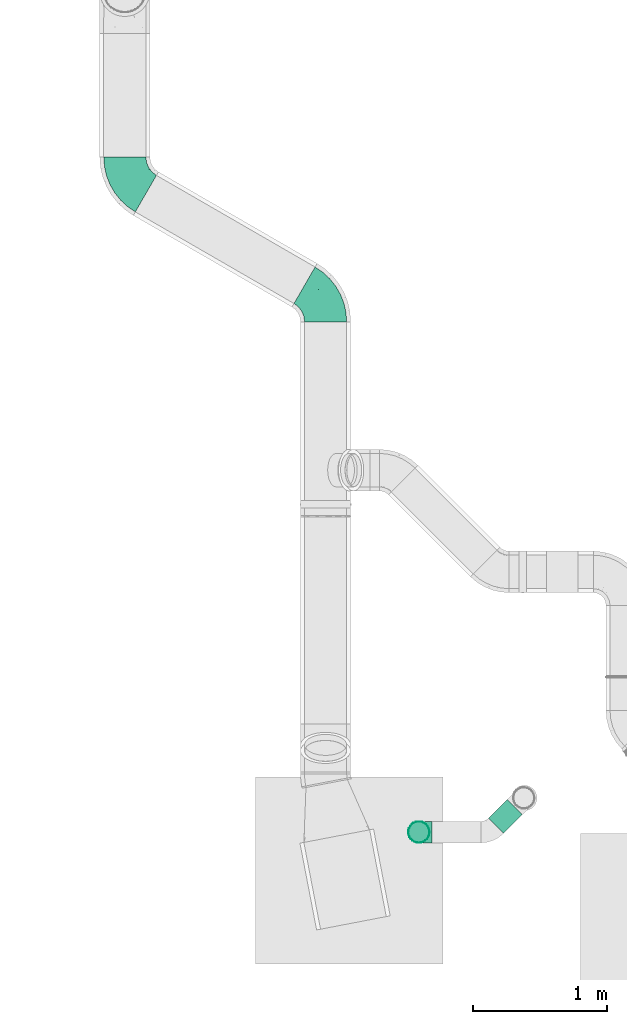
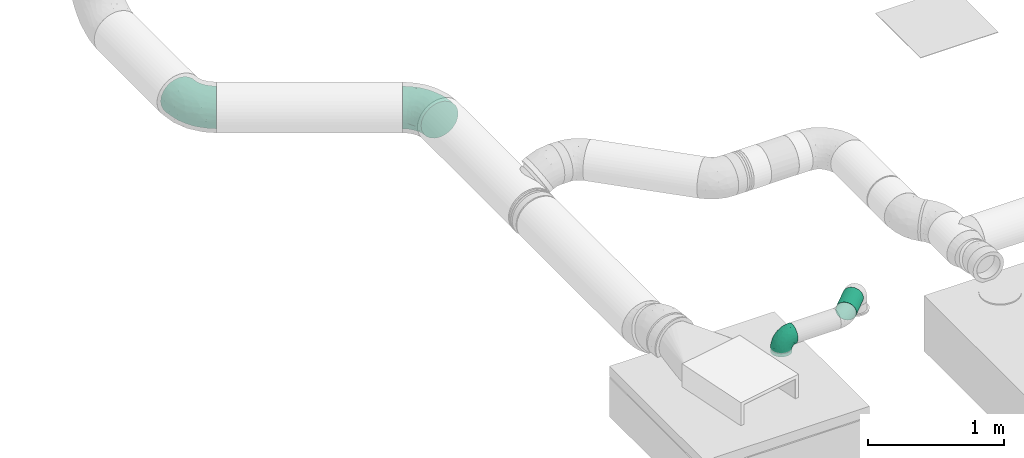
# One storey, part 11 of 21: 3 flow fittings, 2 flow segments.
"""IFC2X3 building model written with IfcOpenShell, lengths in millimetres."""

from ifc_helpers import new_model, entity, si_unit, converted_unit, derived_unit, direction, frame, origin_with_axes, origin_2d_with_axis, place, context, subcontext, project, spatial, hollow_circle, extrude, open_shell, surface_model, source, transform, mapped, type_object, element, save


model = new_model("IFC2X3")

# Units and contexts
model_context = context("Model", 3, precision=0.01, world=frame((0.0, 4.29681676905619e-09, 0.0)), true_north=direction((4.01073788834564e-13, 1.0)))
plan_context = context("Plan", 3, precision=0.01, world=frame((0.0, 4.29681676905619e-09, 0.0)), true_north=direction((4.01073788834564e-13, 1.0)))
body_context = subcontext(model_context, "Body", "Model", "MODEL_VIEW")
ifc_project = project(units=[converted_unit("PLANEANGLEUNIT", "DEGREE", entity("IfcPositiveLengthMeasure", 0.0174532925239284), si_unit("PLANEANGLEUNIT", "RADIAN"), dimensions=[0, 0, 0, 0, 0, 0, 0]), si_unit("AREAUNIT", "SQUARE_METRE"), si_unit("LENGTHUNIT", "METRE", prefix="MILLI"), si_unit("MASSUNIT", "GRAM", prefix="KILO"), si_unit("POWERUNIT", "WATT"), si_unit("PRESSUREUNIT", "PASCAL"), si_unit("FORCEUNIT", "NEWTON", prefix="KILO"), si_unit("ELECTRICVOLTAGEUNIT", "VOLT"), si_unit("ELECTRICCURRENTUNIT", "AMPERE"), si_unit("THERMODYNAMICTEMPERATUREUNIT", "DEGREE_CELSIUS"), si_unit("TIMEUNIT", "SECOND"), si_unit("VOLUMEUNIT", "CUBIC_METRE"), derived_unit("LINEARVELOCITYUNIT", [(si_unit("LENGTHUNIT", "METRE"), 1), (si_unit("TIMEUNIT", "SECOND"), -1)]), derived_unit("VOLUMETRICFLOWRATEUNIT", [(si_unit("VOLUMEUNIT", "CUBIC_METRE"), 1), (si_unit("TIMEUNIT", "SECOND"), -1)]), derived_unit("THERMALTRANSMITTANCEUNIT", [(si_unit("POWERUNIT", "WATT"), 1), (si_unit("THERMODYNAMICTEMPERATUREUNIT", "KELVIN"), -1), (si_unit("AREAUNIT", "SQUARE_METRE"), -1)]), derived_unit("SOUNDPRESSUREUNIT", [(si_unit("PRESSUREUNIT", "PASCAL"), 1)])], contexts=[model_context, plan_context])

# Site, building, storey
site_placement = place(None, frame((0.0, -4.29681676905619e-09, 0.0), z_axis=(0.0, 0.0, 1.0), x_axis=(1.0, 0.0, 0.0)))
site = spatial("IfcSite", under=ifc_project, at=site_placement, Name="ENGM", CompositionType="ELEMENT")
building_placement = place(site_placement, frame((0.0, 4.29681676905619e-09, 0.0), z_axis=(0.0, 0.0, 1.0), x_axis=(1.0, 0.0, 0.0)))
building = spatial("IfcBuilding", under=site, at=building_placement, Name="TI", CompositionType="ELEMENT")
storey_placement = place(building_placement, frame((0.0, 0.0, 210900.0), z_axis=(0.0, 0.0, 1.0), x_axis=(1.0, 0.0, 0.0)))
storey = spatial("IfcBuildingStorey", under=building, at=storey_placement, Name="Nivå F", CompositionType="ELEMENT", Elevation=210900.0)

# Flow fittings
duct_fitting_type_1 = type_object("IfcDuctFittingType", Name="magicirc_elbow_full_radius_001", PredefinedType="BEND")
shared_shape_1 = source(origin_with_axes(), body_context, "Body", "SurfaceModel", [
    surface_model("IfcShellBasedSurfaceModel", [(-181.86533, 78.75, -136.39901), (-181.86533, 40.764, -152.13332), (-181.86533, 0.0, -157.5), (-181.86533, 136.39901, -78.75), (-181.86533, -40.764, -152.13332), (-181.86533, 111.36932, -111.36932), (-181.86533, -157.5, 0.0), (-181.86533, -152.13332, 40.764), (-181.86533, -111.36932, -111.36932), (-181.86533, -152.13332, -40.764), (-181.86533, -78.75, -136.39901), (-181.86533, -136.39901, -78.75), (-181.86533, 152.13332, -40.764), (-181.86533, 157.5, 0.0), (-181.86533, 152.13332, 40.764), (-181.86533, 136.39901, 78.75), (-181.86533, 111.36932, 111.36932), (-181.86533, 78.75, 136.39901), (-181.86533, 40.764, 152.13332), (-181.86533, -111.36932, 111.36932), (-181.86533, -78.75, 136.39901), (-181.86533, -136.39901, 78.75), (-181.86533, 0.0, 157.5), (-181.86533, -40.764, 152.13332), (90.93267, 157.5, -157.5), (55.63001, 177.882, -152.13332), (22.73317, 196.87499, -136.39901), (126.23533, 137.118, -152.13332), (-27.19233, 225.6995, -78.75), (-5.51599, 213.18466, -111.36932), (209.05766, 89.3005, 78.75), (209.05766, 89.3005, -78.75), (159.13217, 118.125, -136.39901), (187.38133, 101.81534, -111.36932), (227.33167, 78.75, 0.0), (222.68399, 81.43334, -40.764), (-40.81865, 233.56667, -40.764), (-45.46633, 236.25001, 0.0), (-40.81865, 233.56667, 40.764), (-5.51599, 213.18466, 111.36932), (-27.19233, 225.6995, 78.75), (22.73317, 196.87499, 136.39901), (55.63001, 177.882, 152.13332), (90.93267, 157.5, 157.5), (159.13217, 118.125, 136.39901), (187.38133, 101.81534, 111.36932), (222.68399, 81.43334, 40.764), (126.23533, 137.118, 152.13332), (110.76273, -0.00336, 107.668), (140.5601, 45.8297, 117.38206), (81.91186, 10.43972, 130.68405), (-111.44286, -152.22257, 0.0), (151.26053, -14.18578, 35.98804), (112.4867, -47.30743, 41.95893), (139.51628, -31.36701, 0.0), (-114.99803, -144.61996, 49.6829), (-126.50142, -126.84943, 88.47028), (-109.96974, -98.81377, 117.38205), (-64.37418, -120.33447, 79.59013), (-64.36366, -135.25526, 46.96498), (-15.27392, -121.07006, 41.95894), (-126.22227, -64.71378, 141.69356), (-44.09717, 146.02346, 124.10204), (-79.35236, 112.02676, 130.88568), (-39.84735, 117.18973, 140.34133), (-42.59352, -136.50815, 0.0), (-59.9994, 211.57246, 27.04385), (-70.49601, 203.63068, 0.0), (-85.73138, 185.43541, 34.54085), (-132.02375, -25.4379, 154.79457), (-118.3912, 15.78517, 157.23535), (-49.997, -65.7179, 130.68405), (-74.24935, -22.11989, 152.62568), (-113.91776, 161.69398, 55.72905), (-154.20906, 157.69054, 26.36303), (-147.37829, 150.82028, 55.92351), (-133.50671, 56.11724, 148.79392), (-153.32956, 93.08221, 128.36964), (-135.51049, 124.35694, 103.40343), (84.30339, -75.39782, 0.0), (-123.14799, 144.47206, 81.71084), (-118.89481, 168.23686, 26.24423), (119.15491, 76.9548, 141.69356), (-13.61084, 162.72493, 130.57543), (10.38547, 77.05411, 157.23726), (-41.52191, 71.91806, 153.71682), (-26.4509, 22.41066, 156.65388), (52.80545, -91.46174, 31.38351), (23.14473, -110.70779, 0.0), (-37.02596, 183.6982, 102.5914), (-75.69972, 140.92287, 111.635), (21.08468, -36.51975, 128.62127), (71.10118, -38.29592, 102.56973), (27.28929, 160.73301, 147.54451), (50.7669, 119.27431, 157.11659), (88.04174, 101.61697, 154.79457), (182.74359, 27.28124, 49.6829), (187.55003, 20.40107, 0.0), (-49.07554, 205.95609, 65.62823), (136.3998, -4.41756, 79.59014), (173.10555, 46.12873, 88.47028), (-95.424, 158.94702, 78.39144), (16.35901, 32.88599, 154.65677), (-16.85275, -18.01929, 146.95549), (34.02367, 5.80308, 144.73696), (-84.84123, 46.63458, 154.687), (-72.01236, 14.6035, 157.42522), (-2.38537, -80.72341, 102.56972), (-103.11534, 178.601, 0.0), (7.24751, 126.43103, 150.02722), (-141.10133, 162.86668, 0.0), (32.66393, -56.57561, 108.61352), (46.0987, -79.84532, 70.32442), (-79.7114, 81.12666, 145.71002), (-115.12964, 94.73101, 132.69459), (-18.6358, 100.08433, 150.89732), (56.28106, 53.24188, 152.62568), (-55.37846, -95.92503, 107.668), (-69.30556, 177.02177, 77.81695), (-13.5701, -105.93469, 75.304), (89.26311, -50.06901, 72.66179), (-123.44581, 93.85334, -131.77335), (147.79315, 57.50598, -118.88911), (107.77828, 58.24519, -140.04791), (129.92422, 97.27064, -143.33093), (-137.86717, 15.85621, -156.99214), (-54.73419, -64.90254, -132.20136), (-60.11427, -27.6816, -149.79229), (-6.30734, -50.74549, -128.76426), (-133.18221, 56.11854, -148.81421), (-17.03345, -119.03998, -50.20296), (-151.85506, 157.83072, -27.99937), (-71.0633, 63.05643, -152.3967), (-116.92237, 165.96483, -39.64094), (46.03909, -79.74205, -70.56285), (52.79038, -91.43563, -31.53145), (-137.48804, 124.16941, -103.08647), (-95.24681, 121.97559, -118.77775), (26.84257, 83.29066, -157.46842), (-18.85355, 39.16493, -157.40731), (-20.86954, 89.71792, -152.82138), (-46.69555, 170.63897, -105.17697), (-125.0258, -145.41283, -51.3092), (-148.65725, -126.9605, -91.48433), (-126.4138, -25.53372, -154.61278), (13.29636, 135.64746, -149.37197), (-123.69822, -99.23964, -118.88911), (-12.36972, 164.694, -130.3119), (-149.20096, -63.88236, -143.33093), (160.41377, 26.83441, -85.2544), (152.18143, -6.25116, -52.60875), (124.63741, -14.8328, -80.69152), (-104.33096, -64.21613, -140.04791), (-59.74919, 138.52412, -121.35675), (-61.97527, 107.34428, -138.37711), (-103.44617, -125.50519, -85.2544), (-85.52794, -85.93602, -123.81311), (51.42676, -12.4232, -131.26832), (54.0301, 38.21968, -149.79229), (78.87033, 22.65712, -137.54899), (85.31975, 96.71069, -154.61278), (57.44336, -46.98763, -103.2453), (102.61487, -4.27903, -110.0934), (86.58972, -48.29654, -78.18841), (-66.42474, 202.11156, -35.10941), (111.60837, -44.76859, -50.20296), (-58.80114, 192.99796, -68.73443), (-70.67705, -134.91856, -52.60875), (184.27965, 65.2607, -91.48433), (55.2017, 127.32457, -156.99214), (1.66971, -2.89203, -148.64372), (-94.8613, 159.94867, -77.33496), (-140.92922, 146.9223, -68.11525), (-5.47691, -101.82457, -76.61464), (-49.47313, -115.35557, -80.69151), (188.44411, 35.5691, -51.3092), (-31.73291, 131.45204, -136.90205), (-85.55313, 18.39898, -157.46842), (8.33194, -78.69504, -99.32713), (-47.60168, -91.0066, -110.0934), (-83.06126, 146.65121, -102.24739)], [open_shell([[[0, 1, 2]], [[3, 0, 2]], [[4, 3, 2]], [[5, 0, 3]], [[3, 6, 7]], [[8, 9, 10]], [[4, 10, 6]], [[11, 9, 8]], [[6, 10, 9]], [[6, 3, 4]], [[7, 12, 3]], [[13, 7, 14]], [[15, 14, 16]], [[17, 16, 7]], [[7, 16, 14]], [[7, 18, 17]], [[19, 20, 21]], [[7, 21, 22]], [[23, 22, 20]], [[21, 20, 22]], [[22, 18, 7]], [[12, 7, 13]], [[24, 25, 26]], [[27, 24, 26]], [[27, 26, 28]], [[28, 26, 29]], [[28, 30, 31]], [[32, 31, 33]], [[31, 32, 27]], [[31, 34, 35]], [[31, 27, 28]], [[31, 30, 34]], [[28, 36, 37]], [[28, 38, 39]], [[39, 38, 40]], [[30, 39, 41]], [[39, 30, 28]], [[41, 42, 43]], [[30, 44, 45]], [[46, 34, 30]], [[44, 43, 47]], [[44, 30, 41]], [[43, 44, 41]], [[28, 37, 38]], [[48, 49, 50]], [[7, 6, 51]], [[52, 53, 54]], [[55, 21, 7]], [[51, 55, 7]], [[56, 57, 19]], [[58, 59, 60]], [[20, 61, 23]], [[20, 19, 57]], [[56, 19, 21]], [[62, 63, 64]], [[60, 59, 65]], [[66, 67, 68]], [[22, 69, 70]], [[61, 71, 72]], [[20, 57, 61]], [[73, 74, 75]], [[17, 18, 76]], [[69, 22, 23]], [[16, 77, 78]], [[53, 79, 54]], [[15, 80, 75]], [[74, 13, 14]], [[73, 81, 74]], [[49, 82, 50]], [[82, 44, 47]], [[16, 78, 15]], [[41, 39, 83]], [[16, 17, 77]], [[84, 85, 86]], [[79, 87, 88]], [[62, 89, 90]], [[91, 92, 50]], [[42, 93, 94]], [[47, 43, 95]], [[96, 52, 97]], [[46, 96, 97]], [[43, 42, 94]], [[49, 45, 44]], [[34, 46, 97]], [[66, 68, 98]], [[49, 99, 100]], [[45, 100, 30]], [[60, 65, 88]], [[68, 73, 101]], [[30, 96, 46]], [[22, 70, 18]], [[102, 103, 104]], [[105, 106, 86]], [[37, 67, 66]], [[91, 71, 107]], [[68, 108, 81]], [[109, 84, 94]], [[67, 108, 68]], [[76, 18, 70]], [[98, 89, 40]], [[81, 108, 110]], [[109, 83, 64]], [[80, 101, 73]], [[59, 51, 65]], [[111, 112, 92]], [[83, 109, 93]], [[93, 42, 41]], [[113, 76, 105]], [[56, 55, 58]], [[82, 49, 44]], [[100, 96, 30]], [[38, 98, 40]], [[99, 53, 52]], [[63, 78, 114]], [[75, 80, 73]], [[89, 39, 40]], [[115, 64, 85]], [[109, 115, 84]], [[95, 94, 116]], [[71, 61, 57]], [[69, 61, 72]], [[117, 57, 58]], [[71, 91, 103]], [[95, 82, 47]], [[116, 104, 50]], [[116, 50, 82]], [[111, 92, 91]], [[55, 56, 21]], [[57, 56, 58]], [[49, 100, 45]], [[96, 100, 99]], [[105, 76, 70]], [[77, 76, 114]], [[83, 62, 64]], [[113, 63, 114]], [[105, 86, 85]], [[116, 94, 84]], [[103, 86, 72]], [[84, 86, 102]], [[74, 81, 110]], [[68, 81, 73]], [[13, 74, 110]], [[74, 14, 75]], [[14, 15, 75]], [[80, 15, 78]], [[78, 90, 80]], [[101, 90, 118]], [[94, 95, 43]], [[82, 95, 116]], [[61, 69, 23]], [[70, 69, 72]], [[90, 89, 118]], [[83, 39, 89]], [[87, 60, 88]], [[119, 112, 107]], [[99, 48, 120]], [[53, 120, 87]], [[57, 117, 71]], [[60, 119, 58]], [[120, 92, 112]], [[49, 48, 99]], [[105, 70, 106]], [[113, 105, 85]], [[64, 113, 85]], [[76, 113, 114]], [[64, 63, 113]], [[78, 63, 90]], [[70, 72, 106]], [[72, 86, 106]], [[90, 101, 80]], [[68, 101, 118]], [[71, 103, 72]], [[104, 103, 91]], [[50, 104, 91]], [[102, 104, 116]], [[84, 102, 116]], [[103, 102, 86]], [[98, 68, 118]], [[37, 66, 38]], [[53, 87, 79]], [[60, 87, 112]], [[76, 77, 17]], [[78, 77, 114]], [[83, 93, 41]], [[94, 93, 109]], [[66, 98, 38]], [[89, 98, 118]], [[119, 117, 58]], [[107, 71, 117]], [[50, 92, 48]], [[120, 48, 92]], [[84, 115, 85]], [[109, 64, 115]], [[89, 62, 83]], [[63, 62, 90]], [[58, 55, 59]], [[59, 55, 51]], [[97, 52, 54]], [[99, 52, 96]], [[112, 119, 60]], [[117, 119, 107]], [[91, 107, 111]], [[112, 111, 107]], [[87, 120, 112]], [[99, 120, 53]], [[121, 0, 5]], [[122, 123, 124]], [[125, 2, 1]], [[126, 127, 128]], [[129, 1, 0]], [[65, 130, 88]], [[110, 131, 13]], [[132, 129, 121]], [[110, 133, 131]], [[130, 134, 135]], [[121, 136, 137]], [[138, 139, 140]], [[28, 29, 141]], [[136, 121, 5]], [[142, 11, 143]], [[144, 4, 2]], [[51, 6, 9]], [[140, 145, 138]], [[146, 8, 10]], [[147, 26, 145]], [[148, 146, 10]], [[149, 150, 151]], [[152, 144, 127]], [[142, 9, 11]], [[143, 11, 8]], [[137, 153, 154]], [[155, 146, 156]], [[10, 4, 148]], [[157, 158, 159]], [[27, 160, 24]], [[108, 133, 110]], [[161, 162, 163]], [[164, 133, 108]], [[165, 54, 79]], [[36, 164, 37]], [[36, 166, 164]], [[167, 51, 142]], [[36, 28, 166]], [[147, 29, 26]], [[33, 31, 168]], [[32, 33, 122]], [[25, 169, 145]], [[124, 160, 27]], [[25, 24, 169]], [[170, 158, 157]], [[171, 166, 141]], [[157, 128, 170]], [[27, 32, 124]], [[54, 165, 150]], [[135, 165, 79]], [[164, 108, 67]], [[129, 0, 121]], [[135, 79, 88]], [[144, 152, 148]], [[123, 122, 162]], [[136, 172, 171]], [[34, 97, 35]], [[173, 130, 174]], [[5, 3, 136]], [[175, 149, 168]], [[31, 35, 175]], [[138, 160, 158]], [[153, 176, 154]], [[25, 145, 26]], [[65, 51, 167]], [[131, 172, 12]], [[130, 167, 174]], [[153, 147, 176]], [[175, 150, 149]], [[168, 122, 33]], [[162, 122, 149]], [[158, 160, 123]], [[169, 160, 138]], [[159, 162, 157]], [[158, 170, 139]], [[35, 97, 175]], [[150, 97, 54]], [[152, 126, 156]], [[143, 146, 155]], [[125, 144, 2]], [[177, 139, 127]], [[177, 127, 144]], [[127, 170, 128]], [[142, 155, 167]], [[51, 9, 142]], [[141, 166, 28]], [[164, 171, 133]], [[172, 3, 12]], [[121, 137, 154]], [[132, 121, 154]], [[125, 129, 177]], [[145, 140, 176]], [[141, 29, 147]], [[162, 161, 157]], [[178, 128, 161]], [[128, 157, 161]], [[128, 179, 126]], [[171, 172, 133]], [[136, 3, 172]], [[129, 125, 1]], [[144, 125, 177]], [[160, 169, 24]], [[145, 169, 138]], [[162, 151, 163]], [[161, 134, 178]], [[173, 134, 130]], [[128, 178, 179]], [[138, 158, 139]], [[132, 154, 140]], [[127, 139, 170]], [[132, 139, 177]], [[139, 132, 140]], [[129, 132, 177]], [[171, 180, 136]], [[180, 141, 153]], [[150, 175, 97]], [[151, 150, 165]], [[151, 165, 163]], [[162, 149, 151]], [[165, 134, 163]], [[134, 161, 163]], [[174, 167, 155]], [[65, 167, 130]], [[155, 179, 174]], [[173, 179, 178]], [[180, 153, 137]], [[147, 153, 141]], [[145, 176, 147]], [[140, 154, 176]], [[136, 180, 137]], [[141, 180, 171]], [[179, 173, 174]], [[134, 173, 178]], [[164, 166, 171]], [[37, 164, 67]], [[130, 135, 88]], [[165, 135, 134]], [[172, 131, 133]], [[13, 131, 12]], [[122, 124, 32]], [[160, 124, 123]], [[175, 168, 31]], [[122, 168, 149]], [[144, 148, 4]], [[146, 148, 152]], [[146, 143, 8]], [[142, 143, 155]], [[158, 123, 159]], [[162, 159, 123]], [[156, 126, 179]], [[127, 126, 152]], [[155, 156, 179]], [[152, 156, 146]]])]),
])
for number, where, z_axis, x_axis, name in (
    (1, (605819.77046, 695681.72271, 2446.77402000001), (0.0, 0.0, 1.0), (0.0, -1.0, 0.0), "magicirc_elbow_full_radius_001"),
    (2, (607319.79165, 694815.68507, 2446.77914), (-2.599999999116e-05, 1.99999999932e-06, 0.99999999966), (5.1999999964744e-11, 0.999999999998, -1.999999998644e-06), "magicirc_elbow_full_radius_001"),
):
    element("IfcFlowFitting", number, at=place(storey_placement, frame(where, z_axis=z_axis, x_axis=x_axis)), inside=storey, type_object=duct_fitting_type_1, Name=name, context=body_context, shape_type="MappedRepresentation", body=[
        mapped(shared_shape_1, transform((0.0, 0.0, 0.0), scale=1.0)),
    ])
duct_fitting_type_2 = type_object("IfcDuctFittingType", Name="magicirc_elbow_short_001", PredefinedType="BEND")
shared_shape_2 = source(origin_with_axes(), body_context, "Body", "SurfaceModel", [
    surface_model("IfcShellBasedSurfaceModel", [(-96.0, 40.0, -69.28203), (-96.0, 20.70552, -77.27406), (-96.0, 0.0, -80.0), (-96.0, -56.56854, -56.56854), (-96.0, 77.27406, -20.70552), (-96.0, 69.28203, -40.0), (-96.0, 56.56854, -56.56854), (-96.0, -80.0, 0.0), (-96.0, 80.0, 0.0), (-96.0, -40.0, -69.28203), (-96.0, -20.70552, -77.27406), (-96.0, -77.27406, -20.70552), (-96.0, -69.28203, -40.0), (-96.0, 69.28203, 40.0), (-96.0, 77.27406, 20.70552), (-96.0, 56.56854, 56.56854), (-96.0, 20.70552, 77.27406), (-96.0, 40.0, 69.28203), (-96.0, -56.56854, 56.56854), (-96.0, -77.27406, 20.70552), (-96.0, -69.28203, 40.0), (-96.0, -40.0, 69.28203), (-96.0, -20.70552, 77.27406), (-96.0, 0.0, 80.0), (0.0, 96.0, -80.0), (-20.70552, 96.0, -77.27406), (-40.0, 96.0, -69.28203), (56.56854, 96.0, -56.56854), (-56.56854, 96.0, -56.56854), (-69.28203, 96.0, -40.0), (-77.27406, 96.0, -20.70552), (-69.28203, 96.0, 40.0), (80.0, 96.0, 0.0), (20.70552, 96.0, -77.27406), (40.0, 96.0, -69.28203), (69.28203, 96.0, -40.0), (77.27406, 96.0, -20.70552), (-80.0, 96.0, 0.0), (-77.27406, 96.0, 20.70552), (-20.70552, 96.0, 77.27406), (-56.56854, 96.0, 56.56854), (-40.0, 96.0, 69.28203), (56.56854, 96.0, 56.56854), (69.28203, 96.0, 40.0), (77.27406, 96.0, 20.70552), (20.70552, 96.0, 77.27406), (40.0, 96.0, 69.28203), (0.0, 96.0, 80.0), (-69.65714, 6.28172, 79.96111), (-55.13809, -64.44506, 39.50294), (-78.49025, -65.24822, 44.92297), (-66.78623, -74.13872, 22.97955), (-79.91237, 22.41513, 77.28168), (-75.12502, 46.35062, 68.0012), (-46.28207, -43.73977, 60.51883), (-62.97607, -34.53622, 70.0448), (-67.13167, -51.75304, 58.52047), (-50.44785, -74.00295, 0.0), (-76.22768, -77.39693, 0.0), (-27.18937, 68.98054, 76.89414), (-6.30632, 70.64214, 79.95132), (-47.75845, -13.62124, 76.38812), (-29.86092, -28.96824, 65.87602), (57.60059, 33.47196, 39.01765), (51.75305, 67.13168, 58.52047), (43.73976, 46.28206, 60.51883), (-74.25916, -14.36459, 78.28299), (10.2254, -42.43563, 0.0), (-6.4993, -53.78904, 15.46457), (-8.0, -56.42047, 0.0), (-84.19087, 70.906, 41.71004), (24.72725, -2.06889, 53.4325), (-0.01802, -25.92843, 53.83674), (10.21505, -32.07542, 38.02021), (-64.56198, 27.52019, 77.2893), (-41.75749, 15.12314, 79.98806), (-96.0, 30.35276, 73.27805), (-24.53367, -60.96696, 23.50038), (-29.22392, -65.21171, 0.0), (-16.40083, 51.31221, 79.86096), (-83.05291, 83.05291, 19.0855), (-84.68629, 84.68629, 0.0), (-82.41856, 62.2587, 53.33399), (-46.30222, 75.90275, 67.84453), (-9.52607, -47.72322, 35.41872), (74.13872, 66.78623, 22.97955), (14.36459, 74.25915, 78.28299), (34.53622, 62.97607, 70.04481), (65.24823, 78.49025, 44.92297), (-12.39357, 25.40172, 78.86526), (-25.63177, 1.26407, 76.9124), (69.81868, 42.56251, 16.79807), (64.44506, 55.13809, 39.50294), (60.96696, 24.53367, 23.50038), (77.39693, 76.22768, 0.0), (74.00295, 50.44785, 0.0), (-66.59951, 66.59951, 58.63708), (-52.47749, 53.06315, 72.00416), (-76.48575, 78.93853, 38.58675), (-62.2587, 82.41856, 53.33399), (28.96823, 29.86091, 65.87602), (13.62124, 47.75844, 76.38812), (-33.73129, 40.02145, 79.0537), (46.13369, 26.24415, 50.15154), (42.43563, -10.2254, 0.0), (56.42047, 8.0, 0.0), (50.0006, 1.26038, 17.57639), (-45.45369, -68.83564, 23.69149), (-33.34939, -57.45722, 39.17207), (23.38464, -27.90661, 24.78871), (35.96834, -11.07246, 30.53911), (-26.24416, -46.1337, 50.15154), (36.67491, -17.59821, 14.56442), (28.45079, -28.45079, 0.0), (65.21171, 29.22392, 0.0), (49.59687, 12.14401, 34.83259), (-47.15333, 29.07461, 78.91273), (-0.98172, 51.31629, 79.49208), (12.49517, 20.08048, 71.22925), (-1.95171, 1.9517, 70.92726), (13.07254, 1.13338, 63.57905), (-1.93327, -13.48238, 63.7412), (-18.92982, -13.00489, 70.66721), (7.85136, -42.49384, 21.32329), (-68.98054, 27.18937, -76.89414), (-22.41513, 79.91236, -77.28168), (-27.52019, 64.56198, -77.2893), (-46.35062, 75.12502, -68.0012), (-74.25916, -14.36459, -78.28299), (-42.56251, -69.81867, -16.79807), (-66.78623, -74.13872, -22.97955), (-70.64214, 6.30632, -79.95132), (-25.40172, 12.39356, -78.86526), (-15.12315, 41.75749, -79.98806), (-1.26408, 25.63177, -76.9124), (-78.93853, 76.48575, -38.58675), (-66.59952, 66.59951, -58.63708), (-82.41856, 62.2587, -53.33399), (60.96695, 24.53367, -23.50038), (53.78904, 6.4993, -15.46457), (-55.13809, -64.44506, -39.50294), (-24.53367, -60.96696, -23.50038), (-29.86092, -28.96824, -65.87602), (-26.24416, -46.1337, -50.15154), (-46.28207, -43.73977, -60.51883), (74.13872, 66.78623, -22.97955), (-40.02145, 33.73129, -79.0537), (-78.49025, -65.24822, -44.92297), (-75.90275, 46.30222, -67.84453), (-70.906, 84.19087, -41.71005), (-67.13167, -51.75305, -58.52047), (-62.97607, -34.53622, -70.0448), (-33.47196, -57.60059, -39.01766), (-51.31221, 16.40082, -79.86096), (-6.28172, 69.65713, -79.96111), (51.75304, 67.13167, -58.52047), (-83.05291, 83.05291, -19.0855), (68.83563, 45.45369, -23.69149), (-62.2587, 82.41856, -53.33399), (34.53622, 62.97606, -70.0448), (-1.26039, -50.0006, -17.5764), (-30.35276, 96.0, -73.27805), (13.62124, 47.75844, -76.38812), (14.36459, 74.25915, -78.28299), (65.24822, 78.49025, -44.92298), (2.06888, -24.72726, -53.4325), (25.92842, 0.01801, -53.83674), (32.07541, -10.21507, -38.02021), (47.72321, 9.52606, -35.41872), (28.96823, 29.86092, -65.87602), (64.44506, 55.13809, -39.50294), (-53.06315, 52.47748, -72.00416), (43.73977, 46.28207, -60.51883), (-47.75844, -13.62124, -76.38812), (57.45722, 33.34938, -39.17207), (27.90661, -23.38464, -24.78871), (11.07245, -35.96834, -30.53911), (46.1337, 26.24416, -50.15154), (17.5982, -36.67492, -14.56442), (-12.14401, -49.59687, -34.8326), (-29.07462, 47.15333, -78.91272), (-51.31629, 0.98172, -79.49208), (-20.08047, -12.49518, -71.22924), (-1.9517, 1.9517, -70.92726), (-1.13337, -13.07254, -63.57905), (13.48238, 1.93328, -63.7412), (13.00488, 18.92982, -70.66721), (42.49384, -7.85136, -21.32329)], [open_shell([[[0, 1, 2]], [[0, 2, 3]], [[4, 5, 6]], [[6, 0, 3]], [[6, 7, 8]], [[9, 3, 10]], [[3, 2, 10]], [[11, 7, 12]], [[3, 12, 7]], [[3, 7, 6]], [[8, 4, 6]], [[13, 14, 8]], [[15, 13, 8]], [[16, 17, 15]], [[8, 16, 15]], [[18, 16, 8]], [[19, 20, 7]], [[7, 20, 18]], [[21, 22, 18]], [[22, 16, 18]], [[16, 22, 23]], [[8, 7, 18]], [[24, 25, 26]], [[27, 24, 26]], [[28, 29, 30]], [[31, 32, 26]], [[28, 31, 26]], [[33, 27, 34]], [[33, 24, 27]], [[35, 32, 36]], [[32, 35, 27]], [[26, 32, 27]], [[28, 30, 37]], [[37, 38, 31]], [[31, 39, 32]], [[40, 41, 39]], [[40, 39, 31]], [[32, 39, 42]], [[32, 43, 44]], [[42, 43, 32]], [[42, 45, 46]], [[42, 39, 45]], [[47, 45, 39]], [[28, 37, 31]], [[16, 23, 48]], [[49, 50, 51]], [[52, 53, 17]], [[54, 55, 56]], [[57, 51, 58]], [[39, 59, 60]], [[61, 55, 62]], [[63, 64, 65]], [[50, 18, 20]], [[56, 55, 21]], [[66, 23, 22]], [[67, 68, 69]], [[70, 14, 13]], [[55, 61, 66]], [[71, 72, 73]], [[74, 48, 75]], [[22, 21, 55]], [[17, 53, 15]], [[17, 76, 52]], [[77, 78, 69]], [[79, 60, 59]], [[8, 80, 81]], [[55, 54, 62]], [[8, 14, 80]], [[82, 70, 13]], [[21, 18, 56]], [[13, 15, 82]], [[41, 83, 59]], [[73, 72, 84]], [[51, 19, 58]], [[51, 20, 19]], [[43, 85, 44]], [[64, 42, 46]], [[86, 87, 45]], [[43, 42, 88]], [[46, 45, 87]], [[89, 75, 90]], [[85, 43, 88]], [[91, 92, 93]], [[87, 64, 46]], [[52, 76, 16]], [[85, 94, 44]], [[41, 40, 83]], [[91, 95, 85]], [[83, 96, 97]], [[38, 98, 31]], [[80, 98, 38]], [[98, 96, 99]], [[100, 87, 101]], [[81, 80, 37]], [[77, 69, 68]], [[41, 59, 39]], [[59, 83, 97]], [[102, 75, 89]], [[100, 103, 65]], [[40, 31, 99]], [[39, 60, 47]], [[104, 105, 106]], [[107, 49, 51]], [[86, 45, 47]], [[77, 107, 78]], [[57, 78, 107]], [[49, 107, 108]], [[73, 109, 110]], [[108, 84, 111]], [[104, 112, 113]], [[103, 100, 71]], [[114, 91, 93]], [[60, 86, 47]], [[114, 93, 105]], [[115, 93, 63]], [[93, 115, 106]], [[66, 48, 23]], [[116, 75, 102]], [[74, 116, 97]], [[82, 53, 96]], [[99, 83, 40]], [[96, 53, 97]], [[79, 59, 102]], [[60, 117, 86]], [[65, 64, 87]], [[88, 64, 92]], [[50, 56, 18]], [[56, 49, 108]], [[48, 61, 75]], [[90, 75, 61]], [[118, 89, 119]], [[79, 117, 60]], [[119, 120, 118]], [[71, 110, 115]], [[119, 121, 120]], [[122, 121, 119]], [[72, 62, 111]], [[90, 122, 119]], [[72, 111, 84]], [[71, 120, 121]], [[74, 97, 53]], [[59, 97, 102]], [[19, 7, 58]], [[94, 85, 95]], [[94, 32, 44]], [[87, 86, 101]], [[55, 66, 22]], [[48, 66, 61]], [[98, 99, 31]], [[83, 99, 96]], [[53, 82, 15]], [[70, 96, 98]], [[102, 89, 79]], [[117, 89, 101]], [[89, 117, 79]], [[86, 117, 101]], [[96, 70, 82]], [[70, 98, 80]], [[80, 14, 70]], [[37, 80, 38]], [[51, 50, 20]], [[56, 50, 49]], [[64, 88, 42]], [[85, 88, 92]], [[52, 48, 74]], [[48, 52, 16]], [[52, 74, 53]], [[107, 51, 57]], [[108, 107, 77]], [[77, 68, 84]], [[108, 111, 54]], [[77, 84, 108]], [[84, 123, 73]], [[109, 73, 123]], [[71, 73, 110]], [[113, 109, 123]], [[93, 106, 105]], [[109, 112, 110]], [[92, 63, 93]], [[112, 106, 110]], [[113, 112, 109]], [[106, 112, 104]], [[71, 115, 103]], [[110, 106, 115]], [[64, 63, 92]], [[103, 115, 63]], [[67, 113, 123]], [[84, 68, 123]], [[68, 67, 123]], [[95, 91, 114]], [[92, 91, 85]], [[100, 65, 87]], [[63, 65, 103]], [[108, 54, 56]], [[62, 54, 111]], [[97, 116, 102]], [[74, 75, 116]], [[122, 61, 62]], [[89, 90, 119]], [[61, 122, 90]], [[121, 62, 72]], [[62, 121, 122]], [[71, 121, 72]], [[71, 100, 120]], [[118, 120, 100]], [[100, 101, 118]], [[89, 118, 101]], [[0, 124, 1]], [[125, 126, 127]], [[10, 2, 128]], [[129, 57, 130]], [[1, 131, 2]], [[132, 133, 134]], [[135, 136, 137]], [[138, 105, 139]], [[5, 137, 6]], [[129, 140, 141]], [[5, 4, 135]], [[142, 143, 144]], [[145, 35, 36]], [[146, 133, 132]], [[130, 12, 147]], [[0, 6, 148]], [[130, 58, 11]], [[149, 30, 29]], [[150, 9, 151]], [[152, 150, 144]], [[3, 9, 150]], [[9, 10, 151]], [[153, 131, 124]], [[3, 147, 12]], [[25, 24, 154]], [[10, 128, 151]], [[12, 130, 11]], [[34, 27, 155]], [[8, 81, 156]], [[138, 157, 114]], [[37, 30, 156]], [[156, 135, 4]], [[29, 158, 149]], [[33, 34, 159]], [[67, 69, 160]], [[28, 158, 29]], [[26, 161, 125]], [[148, 124, 0]], [[126, 154, 133]], [[159, 162, 163]], [[164, 27, 35]], [[28, 26, 127]], [[165, 166, 167]], [[33, 163, 24]], [[168, 167, 166]], [[1, 124, 131]], [[138, 114, 105]], [[104, 139, 105]], [[162, 159, 169]], [[155, 159, 34]], [[170, 164, 145]], [[148, 136, 171]], [[145, 94, 95]], [[159, 172, 169]], [[142, 151, 173]], [[155, 172, 159]], [[124, 148, 171]], [[125, 127, 26]], [[95, 114, 157]], [[156, 4, 8]], [[157, 170, 145]], [[145, 36, 94]], [[170, 157, 174]], [[167, 175, 176]], [[174, 168, 177]], [[67, 178, 113]], [[143, 142, 165]], [[78, 129, 141]], [[36, 32, 94]], [[78, 141, 69]], [[179, 141, 152]], [[141, 179, 160]], [[163, 154, 24]], [[126, 133, 180]], [[126, 180, 171]], [[158, 127, 136]], [[137, 148, 6]], [[136, 127, 171]], [[153, 124, 146]], [[131, 181, 128]], [[144, 150, 151]], [[147, 150, 140]], [[164, 155, 27]], [[155, 170, 174]], [[154, 162, 133]], [[134, 133, 162]], [[182, 132, 183]], [[153, 181, 131]], [[183, 184, 182]], [[165, 176, 179]], [[183, 185, 184]], [[186, 185, 183]], [[166, 169, 177]], [[134, 186, 183]], [[166, 177, 168]], [[165, 184, 185]], [[126, 171, 127]], [[124, 171, 146]], [[58, 130, 57]], [[58, 7, 11]], [[131, 128, 2]], [[151, 128, 173]], [[159, 163, 33]], [[154, 163, 162]], [[135, 137, 5]], [[148, 137, 136]], [[127, 158, 28]], [[149, 136, 135]], [[146, 132, 153]], [[181, 132, 173]], [[132, 181, 153]], [[128, 181, 173]], [[136, 149, 158]], [[149, 135, 156]], [[37, 156, 81]], [[156, 30, 149]], [[145, 164, 35]], [[155, 164, 170]], [[150, 147, 3]], [[130, 147, 140]], [[126, 125, 154]], [[25, 154, 125]], [[161, 25, 125]], [[157, 145, 95]], [[174, 157, 138]], [[138, 139, 168]], [[174, 177, 172]], [[138, 168, 174]], [[168, 187, 167]], [[175, 167, 187]], [[165, 167, 176]], [[113, 175, 187]], [[141, 160, 69]], [[175, 178, 176]], [[140, 152, 141]], [[178, 160, 176]], [[113, 178, 175]], [[160, 178, 67]], [[165, 179, 143]], [[176, 160, 179]], [[150, 152, 140]], [[143, 179, 152]], [[104, 113, 187]], [[168, 139, 187]], [[139, 104, 187]], [[57, 129, 78]], [[140, 129, 130]], [[142, 144, 151]], [[152, 144, 143]], [[174, 172, 155]], [[169, 172, 177]], [[133, 146, 180]], [[171, 180, 146]], [[186, 162, 169]], [[132, 134, 183]], [[162, 186, 134]], [[185, 169, 166]], [[169, 185, 186]], [[165, 185, 166]], [[165, 142, 184]], [[182, 184, 142]], [[142, 173, 182]], [[132, 182, 173]]])]),
])
flow_fitting_placement = place(storey_placement, frame((608016.84802, 690821.23442, 2566.97847999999), z_axis=(0.0, -1.0, 0.0), x_axis=(-1.0, 0.0, 0.0)))
element("IfcFlowFitting", 3, at=flow_fitting_placement, inside=storey, type_object=duct_fitting_type_2, Name="magicirc_elbow_short_001", context=body_context, shape_type="MappedRepresentation", body=[
    mapped(shared_shape_2, transform((0.0, 0.0, 0.0), scale=1.0)),
])

# Flow segments
duct_segment_type = type_object("IfcDuctSegmentType", Name="2 - Spiro kanaler, Forsinket stål", PredefinedType="RIGIDSEGMENT")
shared_shape_3 = source(origin_with_axes(), body_context, "Body", "SweptSolid", [
    extrude(hollow_circle(Radius=80.0, WallThickness=2.0, at=origin_2d_with_axis()), frame((0.0, 0.0, 0.0), z_axis=(1.0, 0.0, 0.0), x_axis=(0.0, 1.0, 0.0)), (0.0, 0.0, 1.0), 29.0),
])
flow_segment_1_placement = place(storey_placement, frame((608016.84802, 690821.23442, 2470.97847999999), z_axis=(-1.0, 0.0, 0.0), x_axis=(0.0, 0.0, -1.0)))
element("IfcFlowSegment", 4, at=flow_segment_1_placement, inside=storey, type_object=duct_segment_type, Name="2 - Spiro kanaler, Forsinket stål", context=body_context, shape_type="MappedRepresentation", body=[
    mapped(shared_shape_3, transform((0.0, 0.0, 0.0), scale=1.0)),
])
shared_shape_4 = source(origin_with_axes(), body_context, "Body", "SweptSolid", [
    extrude(hollow_circle(Radius=80.0, WallThickness=2.0, at=origin_2d_with_axis()), frame((0.0, 0.0, 0.0), z_axis=(1.0, 0.0, 0.0), x_axis=(0.0, 1.0, 0.0)), (0.0, 0.0, 1.0), 198.4),
])
flow_segment_2_placement = place(storey_placement, frame((608593.04644, 690868.09734, 2566.97847999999), z_axis=(0.0, 0.0, 1.0), x_axis=(0.707106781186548, 0.707106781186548, 0.0)))
element("IfcFlowSegment", 5, at=flow_segment_2_placement, inside=storey, type_object=duct_segment_type, Name="2 - Spiro kanaler, Forsinket stål", context=body_context, shape_type="MappedRepresentation", body=[
    mapped(shared_shape_4, transform((0.0, 0.0, 0.0), scale=1.0)),
])

save(model, "model.ifc")
